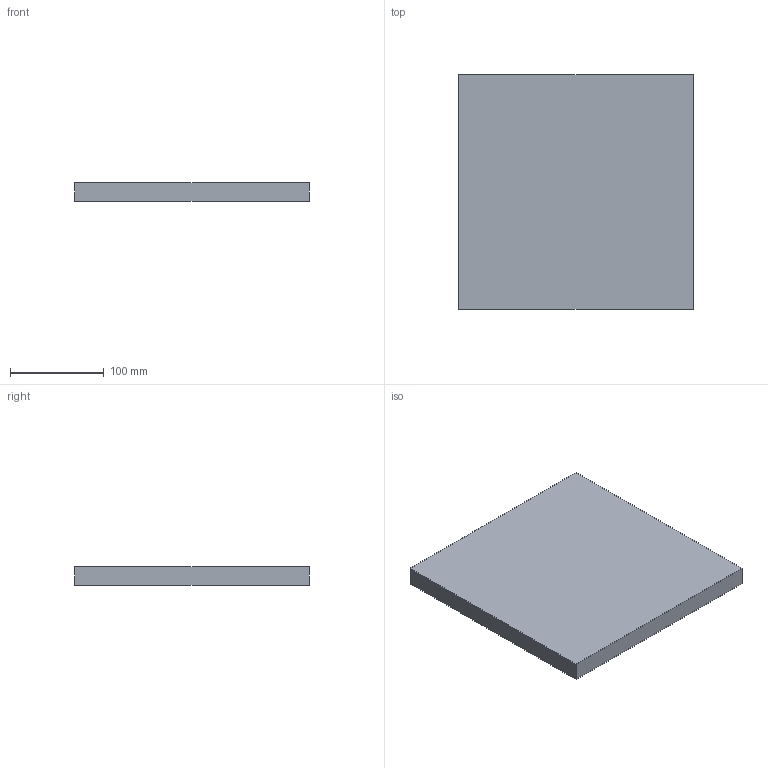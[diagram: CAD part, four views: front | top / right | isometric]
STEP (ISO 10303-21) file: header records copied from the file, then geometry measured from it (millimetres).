
FILE_DESCRIPTION(('Open CASCADE Model'),'2;1');
FILE_NAME('Open CASCADE Shape Model','2026-10-19T10:09:21',('Author'),( 'Open CASCADE'),'Open CASCADE STEP processor 8.0','Open CASCADE 8.0' ,'Unknown');
FILE_SCHEMA(('AUTOMOTIVE_DESIGN { 1 0 10303 214 1 1 1 1 }'));
Length unit declared in the file: millimetre
Products named in the file (1): BRT_CONTRACARA_250x250x20_P05 137
Bounding box: 250 x 250 x 20 mm (x, y, z)
Volume: 1250000 mm3; surface area: 145000 mm2
Topology: 1 solids, 1 shells, 6 faces, 12 edges, 8 vertices
Faces by surface type: plane 6
Entity records: 322 total; most frequent: CARTESIAN_POINT 51, DIRECTION 50, LINE 36, VECTOR 36, ORIENTED_EDGE 24, PCURVE 24, DEFINITIONAL_REPRESENTATION 24, EDGE_CURVE 12
